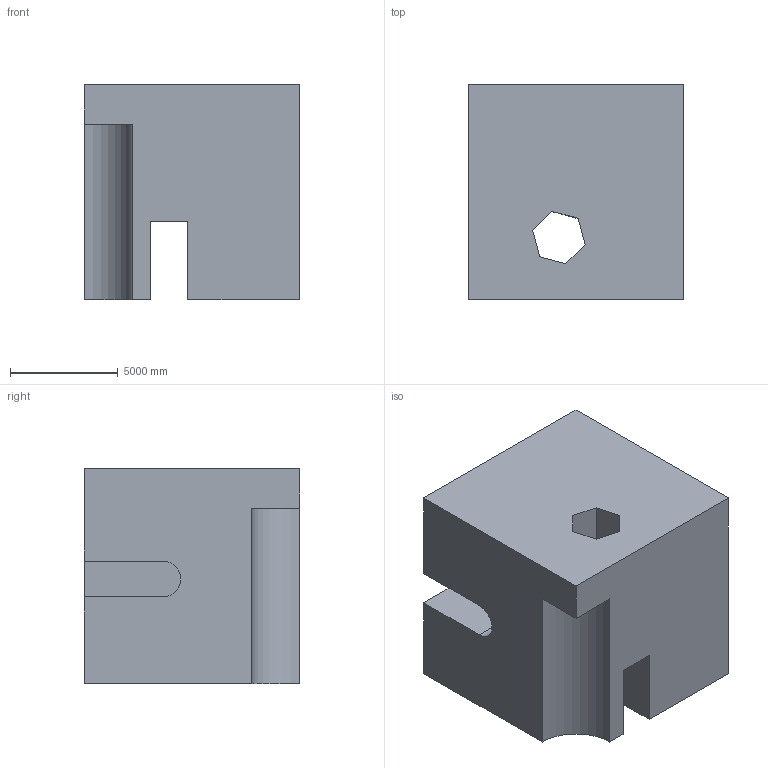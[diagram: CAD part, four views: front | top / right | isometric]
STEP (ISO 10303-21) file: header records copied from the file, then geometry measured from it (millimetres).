
FILE_DESCRIPTION (( 'STEP AP203' ), '1' );
FILE_NAME ('1367.STEP', '2022-08-18T14:04:34', ( 'user' ), ( '' ), 'SwSTEP 2.0', 'SolidWorks 2021', '' );
FILE_SCHEMA (( 'CONFIG_CONTROL_DESIGN' ));
Length unit declared in the file: centimetre
Products named in the file (1): 1367
Bounding box: 10000 x 10000 x 10000 mm (x, y, z)
Volume: 847111603560.2 mm3; surface area: 728990914.4 mm2
Topology: 1 solids, 1 shells, 25 faces, 72 edges, 48 vertices
Faces by surface type: plane 23, cylinder 2
Entity records: 891 total; most frequent: CARTESIAN_POINT 146, ORIENTED_EDGE 144, DIRECTION 128, EDGE_CURVE 72, VECTOR 68, LINE 68, VERTEX_POINT 48, AXIS2_PLACEMENT_3D 30
